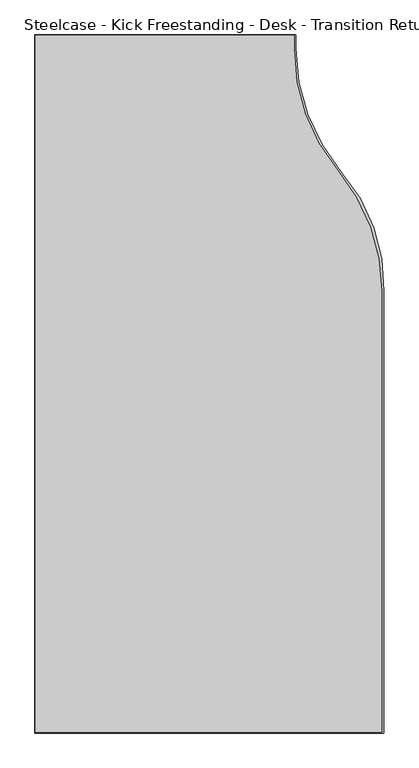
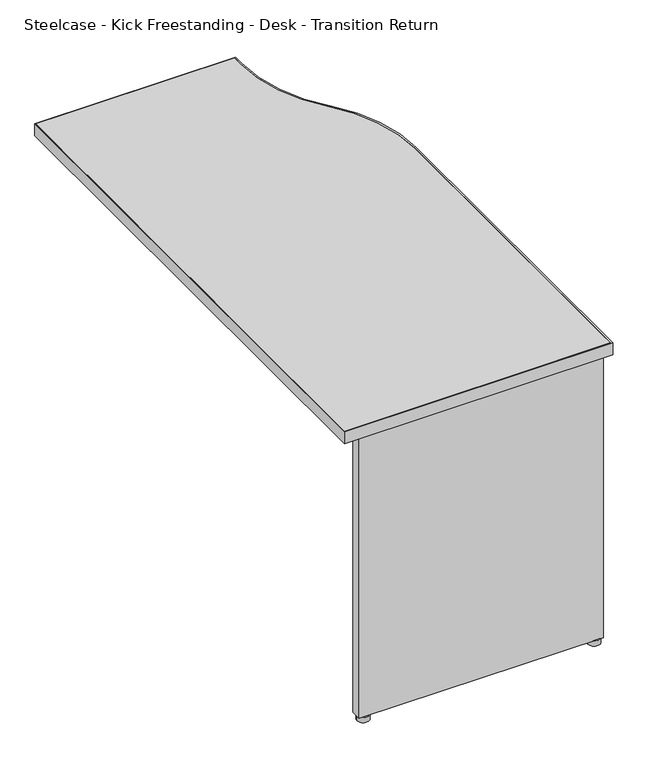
"""IFC4 building model written with IfcOpenShell, lengths in millimetres: furniture geometry, Steelcase - Kick Freestanding - Desk - Transition Return : 18D x 48W - Left."""

from ifc_helpers import new_model, si_unit, point, frame, frame_2d, origin, origin_with_axes, place, context, project, spatial, polyline, circle_curve, trimmed, segment, composite_curve, outline, extrude, source, transform, mapped, element, save


def steelcase_kick_freestanding_desk_transition_return_e67a739f(model_context):
    return source(origin(), model_context, "Body", "SweptSolid", [
        extrude(outline(composite_curve([segment(trimmed(circle_curve(frame_2d((2220.2474425, -1741.1225152)), 13.97), [point((2206.2774425, -1741.1225152))], [point((2234.2174425, -1741.1225152))], False, "CARTESIAN"), True, "CONTINUOUS"), segment(trimmed(circle_curve(frame_2d((2220.2474425, -1741.1225152)), 13.97), [point((2234.2174425, -1741.1225152))], [point((2206.2774425, -1741.1225152))], False, "CARTESIAN"), True, "CONTINUOUS")], self_intersect=False)), origin_with_axes(), (0.0, 0.0, 1.0), 12.7),
        extrude(outline(composite_curve([segment(trimmed(circle_curve(frame_2d((2745.2654425, -1741.0400875)), 13.97), [point((2731.2954425, -1741.0400875))], [point((2759.2354425, -1741.0400875))], False, "CARTESIAN"), True, "CONTINUOUS"), segment(trimmed(circle_curve(frame_2d((2745.2654425, -1741.0400875)), 13.97), [point((2759.2354425, -1741.0400875))], [point((2731.2954425, -1741.0400875))], False, "CARTESIAN"), True, "CONTINUOUS")], self_intersect=False)), origin_with_axes(), (0.0, 0.0, 1.0), 12.7),
        extrude(outline(composite_curve([segment(polyline([(2616.8176592, -547.8051152), (2616.8176592, -572.1320079)]), True, "CONTINUOUS"), segment(trimmed(circle_curve(frame_2d((2941.6463505, -574.5942763)), 324.8380233), [point((2616.8176592, -572.1320079))], [point((2692.5587903, -783.1011797))], True, "CARTESIAN"), True, "CONTINUOUS"), segment(trimmed(circle_curve(frame_2d((2440.4841513, -994.1085152)), 328.7335079), [point((2692.5587903, -783.1011797))], [point((2769.2176592, -994.1085152))], False, "CARTESIAN"), True, "CONTINUOUS"), segment(polyline([(2769.2176592, -994.1085152), (2769.2176592, -1764.2619332), (2164.8500425, -1764.2619332), (2164.8500425, -547.8051152), (2616.8176592, -547.8051152)]), True, "CONTINUOUS")], self_intersect=False)), frame((0.0, 0.0, 694.944), z_axis=(0.0, 0.0, 1.0), x_axis=(1.0, 0.0, 0.0)), (0.0, 0.0, 1.0), 28.956),
        extrude(outline(composite_curve([segment(polyline([(2619.7894255, -546.8145152), (2619.7894255, -571.0836731)]), True, "CONTINUOUS"), segment(trimmed(circle_curve(frame_2d((2951.3460478, -571.0836731)), 331.5566223), [point((2619.7894255, -571.0836731))], [point((2699.261298, -786.4509703))], True, "CARTESIAN"), True, "CONTINUOUS"), segment(trimmed(circle_curve(frame_2d((2463.6949436, -987.7058619)), 309.8306613), [point((2699.261298, -786.4509703))], [point((2773.4594425, -994.1085152))], False, "CARTESIAN"), True, "CONTINUOUS"), segment(polyline([(2773.4594425, -994.1085152), (2773.4594425, -1766.0145152), (2163.8594425, -1766.0145152), (2163.8594425, -546.8145152), (2619.7894255, -546.8145152)]), True, "CONTINUOUS")], self_intersect=False), holes=[composite_curve([segment(polyline([(2616.8176592, -547.8051152), (2164.8500425, -547.8051152), (2164.8500425, -1764.2619332), (2769.2176592, -1764.2619332), (2769.2176592, -994.1085152)]), True, "CONTINUOUS"), segment(trimmed(circle_curve(frame_2d((2440.4841513, -994.1085152)), 328.7335079), [point((2769.2176592, -994.1085152))], [point((2692.5587903, -783.1011797))], True, "CARTESIAN"), True, "CONTINUOUS"), segment(trimmed(circle_curve(frame_2d((2941.6463505, -574.5942763)), 324.8380233), [point((2692.5587903, -783.1011797))], [point((2616.8176592, -572.1320079))], False, "CARTESIAN"), True, "CONTINUOUS"), segment(polyline([(2616.8176592, -572.1320079), (2616.8176592, -547.8051152)]), True, "CONTINUOUS")], self_intersect=False)]), frame((0.0, 0.0, 694.944), z_axis=(0.0, 0.0, 1.0), x_axis=(1.0, 0.0, 0.0)), (0.0, 0.0, 1.0), 28.956),
        extrude(outline(polyline([(2205.0074425, -1728.0669041), (2328.2736437, -1728.0669041), (2328.2736437, -1750.4951136), (2427.9940467, -1750.4951136), (2427.9940467, -1728.0669041), (2536.7314502, -1728.0669041), (2536.7314502, -1750.4951136), (2636.4518532, -1750.4951136), (2636.4518532, -1728.0669041), (2759.4894376, -1728.0669041), (2759.4894376, -1752.5525152), (2205.0074425, -1752.5525152), (2205.0074425, -1728.0669041)])), frame((0.0, 0.0, 12.7), z_axis=(0.0, 0.0, 1.0), x_axis=(1.0, 0.0, 0.0)), (0.0, 0.0, 1.0), 682.244),
    ])


if __name__ == "__main__":
    model = new_model("IFC4")
    model_context = context("Model", 3, world=origin())
    ifc_project = project(units=[si_unit("LENGTHUNIT", "METRE", prefix="MILLI")], contexts=[model_context])
    site = spatial("IfcSite", under=ifc_project)
    building = spatial("IfcBuilding", under=site)
    placement = place(None, origin())
    steelcase_kick_freestanding_desk_transition_return_shape = steelcase_kick_freestanding_desk_transition_return_e67a739f(model_context)
    element("IfcFurniture", 1, ObjectType="Steelcase - Kick Freestanding - Desk - Transition Return : 18D x 48W - Left", at=placement, inside=building, context=model_context, shape_type="MappedRepresentation", body=[
        mapped(steelcase_kick_freestanding_desk_transition_return_shape, transform((0.0, 0.0, 0.0), x_axis=(1.0, 0.0, 0.0), y_axis=(0.0, 1.0, 0.0), z_axis=(0.0, 0.0, 1.0))),
    ])
    save(model, "model.ifc")
